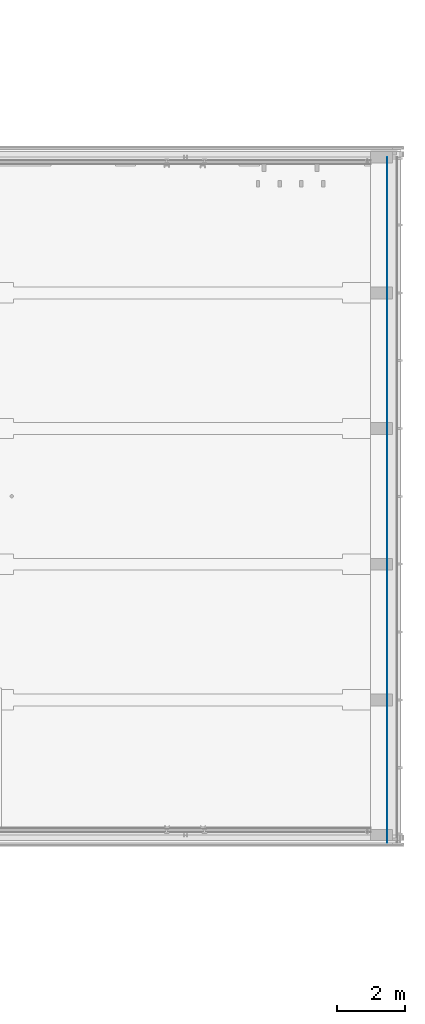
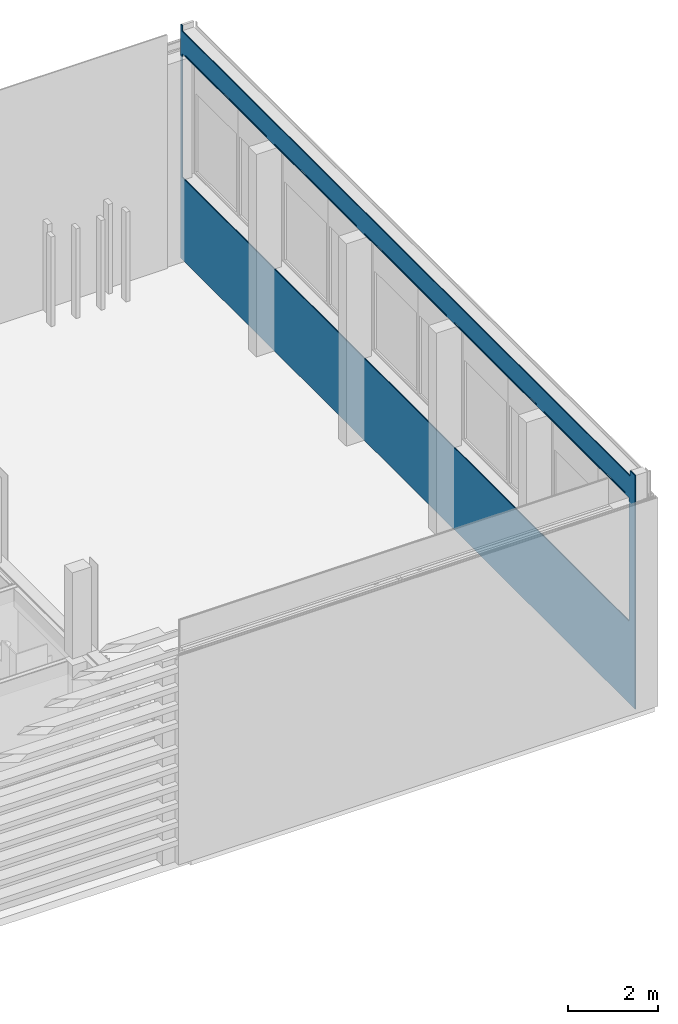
# One storey, part 26 of 109: 3 building element parts, 10 openings, 1 element without a shape of its own.
"""IFC2X3 building model written with IfcOpenShell, lengths in millimetres."""

from ifc_helpers import new_model, entity, si_unit, converted_unit, derived_unit, money_unit, direction, frame, origin_with_axes, place, context, subcontext, project, spatial, faceted_brep, material, type_object, element, aggregate, save


model = new_model("IFC2X3")

# Units and contexts
model_context = context("Model", 3, precision=0.01, world=origin_with_axes(), true_north=direction((0.0, 1.0)))
body_context = subcontext(model_context, "Body", "Model", "MODEL_VIEW")
ifc_project = project(units=[si_unit("LENGTHUNIT", "METRE", prefix="MILLI"), si_unit("AREAUNIT", "SQUARE_METRE"), si_unit("VOLUMEUNIT", "CUBIC_METRE"), converted_unit("PLANEANGLEUNIT", "DEGREE", entity("IfcPlaneAngleMeasure", 0.0174532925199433), si_unit("PLANEANGLEUNIT", "RADIAN"), dimensions=[0, 0, 0, 0, 0, 0, 0]), money_unit("EUR"), converted_unit("TIMEUNIT", "Year", entity("IfcTimeMeasure", 31557600.0), si_unit("TIMEUNIT", "SECOND"), dimensions=[0, 0, 1, 0, 0, 0, 0]), si_unit("MASSUNIT", "GRAM", prefix="KILO"), si_unit("THERMODYNAMICTEMPERATUREUNIT", "DEGREE_CELSIUS"), si_unit("LUMINOUSINTENSITYUNIT", "LUMEN"), si_unit("ENERGYUNIT", "JOULE", prefix="MEGA"), derived_unit("THERMALCONDUCTANCEUNIT", [(si_unit("POWERUNIT", "WATT"), 1), (si_unit("LENGTHUNIT", "METRE"), -1), (si_unit("THERMODYNAMICTEMPERATUREUNIT", "KELVIN"), -1)]), derived_unit("SPECIFICHEATCAPACITYUNIT", [(si_unit("ENERGYUNIT", "JOULE"), 1), (si_unit("MASSUNIT", "GRAM", prefix="KILO"), -1), (si_unit("THERMODYNAMICTEMPERATUREUNIT", "KELVIN"), -1)]), derived_unit("MASSDENSITYUNIT", [(si_unit("MASSUNIT", "GRAM", prefix="KILO"), 1), (si_unit("VOLUMEUNIT", "CUBIC_METRE"), -1)])], contexts=[model_context])

# Site, building, storey
site_placement = place(None, origin_with_axes())
site = spatial("IfcSite", under=ifc_project, at=site_placement, Name="<site naam>", CompositionType="ELEMENT")
building_placement = place(site_placement, origin_with_axes())
building = spatial("IfcBuilding", under=site, at=building_placement, Name="<Naam gebouw>", CompositionType="ELEMENT")
storey_placement = place(building_placement, origin_with_axes())
storey = spatial("IfcBuildingStorey", under=building, at=storey_placement, Name="00 Begane grond", CompositionType="ELEMENT", Elevation=0.0)

# Wall, openings, building element parts
wall_type = type_object("IfcWallType", Name="HSB_285 gevelbeplating 420", PredefinedType="NOTDEFINED")
wall_placement = place(storey_placement, frame((70205.99994042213, -214.0893451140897, 0.0), z_axis=(0.0, 0.0, 1.0), x_axis=(0.0, 1.0, 0.0)))
wall = element("IfcWall", 1, at=wall_placement, inside=storey, type_object=wall_type, Name="21_Binnenwand_HSB_285")
opening_1_placement = place(wall_placement, frame((5214.089345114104, 0.0, 2228.02207453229), z_axis=(0.0, 0.0, 1.0), x_axis=(1.0, 0.0, 0.0)))
element("IfcOpeningElement", 2, at=opening_1_placement, cuts=wall, Name="21_BU-B-04_305", context=body_context, shape_type="Brep", body=[
    faceted_brep([(1000.0, 6.000000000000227, 0.0), (1000.0, 6.000000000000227, 3353.976173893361), (1000.0, -1.000000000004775, 3353.976173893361), (1000.0, -1.000000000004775, 0.0), (1000.0, 421.0000000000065, 0.0), (1000.0, 421.0000000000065, 3353.976173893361), (-1000.0, 6.000000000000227, 3353.976173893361), (-1000.0, -1.000000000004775, 3353.976173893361), (-1000.0, -1.000000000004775, 0.0), (-1000.0, 6.000000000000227, 0.0), (-1000.0, 421.0000000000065, 0.0), (-1000.0, 421.0000000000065, 3353.976173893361)], [[[0, 1, 2, 3]], [[1, 0, 4, 5]], [[1, 6, 7, 2]], [[7, 8, 3, 2]], [[9, 0, 3, 8]], [[0, 9, 10, 4]], [[5, 4, 10, 11]], [[6, 1, 5, 11]], [[6, 9, 8, 7]], [[9, 6, 11, 10]]]),
])
opening_2_placement = place(wall_placement, frame((9214.089345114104, 0.0, 2228.02207453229), z_axis=(0.0, 0.0, 1.0), x_axis=(1.0, 0.0, 0.0)))
element("IfcOpeningElement", 3, at=opening_2_placement, cuts=wall, Name="21_BU-B-04_305", context=body_context, shape_type="Brep", body=[
    faceted_brep([(1000.0, 6.000000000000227, 0.0), (1000.0, 6.000000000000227, 3353.976173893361), (1000.0, -1.000000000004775, 3353.976173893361), (1000.0, -1.000000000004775, 0.0), (1000.0, 421.0000000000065, 0.0), (1000.0, 421.0000000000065, 3353.976173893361), (-1000.0, 6.000000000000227, 3353.976173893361), (-1000.0, -1.000000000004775, 3353.976173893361), (-1000.0, -1.000000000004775, 0.0), (-1000.0, 6.000000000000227, 0.0), (-1000.0, 421.0000000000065, 0.0), (-1000.0, 421.0000000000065, 3353.976173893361)], [[[0, 1, 2, 3]], [[1, 0, 4, 5]], [[1, 6, 7, 2]], [[7, 8, 3, 2]], [[9, 0, 3, 8]], [[0, 9, 10, 4]], [[5, 4, 10, 11]], [[6, 1, 5, 11]], [[6, 9, 8, 7]], [[9, 6, 11, 10]]]),
])
opening_3_placement = place(wall_placement, frame((17214.08934511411, 0.0, 2228.02207453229), z_axis=(0.0, 0.0, 1.0), x_axis=(1.0, 0.0, 0.0)))
element("IfcOpeningElement", 4, at=opening_3_placement, cuts=wall, Name="21_BU-B-04_305", context=body_context, shape_type="Brep", body=[
    faceted_brep([(1000.0, 6.000000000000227, 0.0), (1000.0, 6.000000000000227, 3353.976173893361), (1000.0, -1.000000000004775, 3353.976173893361), (1000.0, -1.000000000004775, 0.0), (1000.0, 421.0000000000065, 0.0), (1000.0, 421.0000000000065, 3353.976173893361), (-1000.0, 6.000000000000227, 3353.976173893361), (-1000.0, -1.000000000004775, 3353.976173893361), (-1000.0, -1.000000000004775, 0.0), (-1000.0, 6.000000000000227, 0.0), (-1000.0, 421.0000000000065, 0.0), (-1000.0, 421.0000000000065, 3353.976173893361)], [[[0, 1, 2, 3]], [[1, 0, 4, 5]], [[1, 6, 7, 2]], [[7, 8, 3, 2]], [[9, 0, 3, 8]], [[0, 9, 10, 4]], [[5, 4, 10, 11]], [[6, 1, 5, 11]], [[6, 9, 8, 7]], [[9, 6, 11, 10]]]),
])
opening_4_placement = place(wall_placement, frame((3214.089345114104, 0.0, 2228.02207453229), z_axis=(0.0, 0.0, 1.0), x_axis=(1.0, 0.0, 0.0)))
element("IfcOpeningElement", 5, at=opening_4_placement, cuts=wall, Name="21_BU-B-04_305", context=body_context, shape_type="Brep", body=[
    faceted_brep([(999.9999999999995, 6.000000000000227, 0.0), (999.9999999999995, 6.000000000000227, 3353.976173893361), (999.9999999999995, -1.000000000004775, 3353.976173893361), (999.9999999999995, -1.000000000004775, 0.0), (999.9999999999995, 421.0000000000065, 0.0), (999.9999999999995, 421.0000000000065, 3353.976173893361), (-1000.0, 6.000000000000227, 3353.976173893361), (-1000.0, -1.000000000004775, 3353.976173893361), (-1000.0, -1.000000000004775, 0.0), (-1000.0, 6.000000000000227, 0.0), (-1000.0, 421.0000000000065, 0.0), (-1000.0, 421.0000000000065, 3353.976173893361)], [[[0, 1, 2, 3]], [[1, 0, 4, 5]], [[1, 6, 7, 2]], [[7, 8, 3, 2]], [[9, 0, 3, 8]], [[0, 9, 10, 4]], [[5, 4, 10, 11]], [[6, 1, 5, 11]], [[6, 9, 8, 7]], [[9, 6, 11, 10]]]),
])
opening_5_placement = place(wall_placement, frame((13214.0893451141, 0.0, 2228.02207453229), z_axis=(0.0, 0.0, 1.0), x_axis=(1.0, 0.0, 0.0)))
element("IfcOpeningElement", 6, at=opening_5_placement, cuts=wall, Name="21_BU-B-04_305", context=body_context, shape_type="Brep", body=[
    faceted_brep([(1000.0, 6.000000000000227, 0.0), (1000.0, 6.000000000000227, 3353.976173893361), (1000.0, -1.000000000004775, 3353.976173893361), (1000.0, -1.000000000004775, 0.0), (1000.0, 421.0000000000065, 0.0), (1000.0, 421.0000000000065, 3353.976173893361), (-1000.0, 6.000000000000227, 3353.976173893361), (-1000.0, -1.000000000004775, 3353.976173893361), (-1000.0, -1.000000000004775, 0.0), (-1000.0, 6.000000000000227, 0.0), (-1000.0, 421.0000000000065, 0.0), (-1000.0, 421.0000000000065, 3353.976173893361)], [[[0, 1, 2, 3]], [[1, 0, 4, 5]], [[1, 6, 7, 2]], [[7, 8, 3, 2]], [[9, 0, 3, 8]], [[0, 9, 10, 4]], [[5, 4, 10, 11]], [[6, 1, 5, 11]], [[6, 9, 8, 7]], [[9, 6, 11, 10]]]),
])
opening_6_placement = place(wall_placement, frame((1244.089344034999, 0.0, 2228.02207453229), z_axis=(0.0, 0.0, 1.0), x_axis=(1.0, 0.0, 0.0)))
element("IfcOpeningElement", 7, at=opening_6_placement, cuts=wall, Name="21_BU-B-03_305", context=body_context, shape_type="Brep", body=[
    faceted_brep([(969.9999984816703, 6.000000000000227, 0.0), (969.9999984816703, 6.000000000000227, 3353.976173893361), (969.9999984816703, -1.000000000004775, 3353.976173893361), (969.9999984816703, -1.000000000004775, 0.0), (969.9999984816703, 421.0000000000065, 0.0), (969.9999984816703, 421.0000000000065, 3353.976173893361), (-969.9999984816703, 6.000000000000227, 3353.976173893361), (-969.9999984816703, -1.000000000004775, 3353.976173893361), (-969.9999984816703, -1.000000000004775, 0.0), (-969.9999984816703, 6.000000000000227, 0.0), (-969.9999984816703, 421.0000000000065, 0.0), (-969.9999984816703, 421.0000000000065, 3353.976173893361)], [[[0, 1, 2, 3]], [[1, 0, 4, 5]], [[1, 6, 7, 2]], [[7, 8, 3, 2]], [[9, 0, 3, 8]], [[0, 9, 10, 4]], [[5, 4, 10, 11]], [[6, 1, 5, 11]], [[6, 9, 8, 7]], [[9, 6, 11, 10]]]),
])
opening_7_placement = place(wall_placement, frame((7214.089345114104, 0.0, 2228.02207453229), z_axis=(0.0, 0.0, 1.0), x_axis=(1.0, 0.0, 0.0)))
element("IfcOpeningElement", 8, at=opening_7_placement, cuts=wall, Name="21_BU-B-04_305", context=body_context, shape_type="Brep", body=[
    faceted_brep([(1000.0, 6.000000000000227, 0.0), (1000.0, 6.000000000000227, 3353.976173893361), (1000.0, -1.000000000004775, 3353.976173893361), (1000.0, -1.000000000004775, 0.0), (1000.0, 421.0000000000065, 0.0), (1000.0, 421.0000000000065, 3353.976173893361), (-1000.0, 6.000000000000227, 3353.976173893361), (-1000.0, -1.000000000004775, 3353.976173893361), (-1000.0, -1.000000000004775, 0.0), (-1000.0, 6.000000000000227, 0.0), (-1000.0, 421.0000000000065, 0.0), (-1000.0, 421.0000000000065, 3353.976173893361)], [[[0, 1, 2, 3]], [[1, 0, 4, 5]], [[1, 6, 7, 2]], [[7, 8, 3, 2]], [[9, 0, 3, 8]], [[0, 9, 10, 4]], [[5, 4, 10, 11]], [[6, 1, 5, 11]], [[6, 9, 8, 7]], [[9, 6, 11, 10]]]),
])
opening_8_placement = place(wall_placement, frame((11214.0893451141, 0.0, 2228.02207453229), z_axis=(0.0, 0.0, 1.0), x_axis=(1.0, 0.0, 0.0)))
element("IfcOpeningElement", 9, at=opening_8_placement, cuts=wall, Name="21_BU-B-04_305", context=body_context, shape_type="Brep", body=[
    faceted_brep([(1000.0, 6.000000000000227, 0.0), (1000.0, 6.000000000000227, 3353.976173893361), (1000.0, -1.000000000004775, 3353.976173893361), (1000.0, -1.000000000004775, 0.0), (1000.0, 421.0000000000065, 0.0), (1000.0, 421.0000000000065, 3353.976173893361), (-1000.0, 6.000000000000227, 3353.976173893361), (-1000.0, -1.000000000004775, 3353.976173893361), (-1000.0, -1.000000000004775, 0.0), (-1000.0, 6.000000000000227, 0.0), (-1000.0, 421.0000000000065, 0.0), (-1000.0, 421.0000000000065, 3353.976173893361)], [[[0, 1, 2, 3]], [[1, 0, 4, 5]], [[1, 6, 7, 2]], [[7, 8, 3, 2]], [[9, 0, 3, 8]], [[0, 9, 10, 4]], [[5, 4, 10, 11]], [[6, 1, 5, 11]], [[6, 9, 8, 7]], [[9, 6, 11, 10]]]),
])
opening_9_placement = place(wall_placement, frame((19184.08934359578, 0.0, 2228.02207453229), z_axis=(0.0, 0.0, 1.0), x_axis=(1.0, 0.0, 0.0)))
element("IfcOpeningElement", 10, at=opening_9_placement, cuts=wall, Name="21_BU-B-03 sp_305", context=body_context, shape_type="Brep", body=[
    faceted_brep([(969.999998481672, 6.000000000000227, 0.0), (969.999998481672, 6.000000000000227, 3353.976173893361), (969.999998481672, -1.000000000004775, 3353.976173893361), (969.999998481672, -1.000000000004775, 0.0), (969.999998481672, 421.0000000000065, 0.0), (969.999998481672, 421.0000000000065, 3353.976173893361), (-969.999998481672, 6.000000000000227, 3353.976173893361), (-969.999998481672, -1.000000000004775, 3353.976173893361), (-969.999998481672, -1.000000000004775, 0.0), (-969.999998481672, 6.000000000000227, 0.0), (-969.999998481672, 421.0000000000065, 0.0), (-969.999998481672, 421.0000000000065, 3353.976173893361)], [[[0, 1, 2, 3]], [[1, 0, 4, 5]], [[1, 6, 7, 2]], [[7, 8, 3, 2]], [[9, 0, 3, 8]], [[0, 9, 10, 4]], [[5, 4, 10, 11]], [[6, 1, 5, 11]], [[6, 9, 8, 7]], [[9, 6, 11, 10]]]),
])
opening_10_placement = place(wall_placement, frame((15214.0893451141, 0.0, 2228.02207453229), z_axis=(0.0, 0.0, 1.0), x_axis=(1.0, 0.0, 0.0)))
element("IfcOpeningElement", 11, at=opening_10_placement, cuts=wall, Name="21_BU-B-04_305", context=body_context, shape_type="Brep", body=[
    faceted_brep([(1000.000000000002, 6.000000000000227, 0.0), (1000.000000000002, 6.000000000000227, 3353.976173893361), (1000.000000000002, -1.000000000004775, 3353.976173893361), (1000.000000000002, -1.000000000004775, 0.0), (1000.000000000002, 421.0000000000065, 0.0), (1000.000000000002, 421.0000000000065, 3353.976173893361), (-1000.0, 6.000000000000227, 3353.976173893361), (-1000.0, -1.000000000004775, 3353.976173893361), (-1000.0, -1.000000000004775, 0.0), (-1000.0, 6.000000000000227, 0.0), (-1000.0, 421.0000000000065, 0.0), (-1000.0, 421.0000000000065, 3353.976173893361)], [[[0, 1, 2, 3]], [[1, 0, 4, 5]], [[1, 6, 7, 2]], [[7, 8, 3, 2]], [[9, 0, 3, 8]], [[0, 9, 10, 4]], [[5, 4, 10, 11]], [[6, 1, 5, 11]], [[6, 9, 8, 7]], [[9, 6, 11, 10]]]),
])
ifc_material_1 = material(Name="hout_OSB")
building_element_part_1_placement = place(wall_placement, origin_with_axes())
building_element_part_1 = element("IfcBuildingElementPart", 12, at=building_element_part_1_placement, material=ifc_material_1, Name="hout_OSB", context=body_context, shape_type="Brep", body=[
    faceted_brep([(20154.08934511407, 407.4999999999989, 6345.0), (20154.08934511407, 392.4999999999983, 6345.0), (20214.08934511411, 392.4999999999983, 6345.0), (20214.08934511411, 407.4999999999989, 6345.0), (20154.08934511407, 392.4999999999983, 6194.999999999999), (20154.08934511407, 407.4999999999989, 6194.999999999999), (225.0000232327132, 392.4999999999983, 6194.999999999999), (225.0000232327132, 392.4999999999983, 6345.0), (0.0, 392.4999999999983, 6345.0), (0.0, 392.4999999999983, 0.0), (20214.08934511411, 392.4999999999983, 0.0), (4039.089489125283, 392.4999999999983, 5594.999999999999), (440.0000776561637, 392.4999999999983, 5594.999999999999), (440.0000776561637, 392.4999999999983, 5634.999999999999), (4039.089489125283, 392.4999999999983, 5634.999999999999), (8039.089336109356, 392.4999999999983, 5594.999999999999), (4389.089384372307, 392.4999999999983, 5594.999999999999), (4389.089384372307, 392.4999999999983, 5634.999999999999), (8039.089336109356, 392.4999999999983, 5634.999999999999), (19999.08927716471, 392.4999999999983, 5594.999999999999), (16389.08941954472, 392.4999999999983, 5594.999999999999), (16389.08941954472, 392.4999999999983, 5634.999999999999), (19999.08927716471, 392.4999999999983, 5634.999999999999), (12039.08950146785, 392.4999999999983, 5594.999999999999), (8389.089369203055, 392.4999999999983, 5594.999999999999), (8389.089369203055, 392.4999999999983, 5634.999999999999), (12039.08950146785, 392.4999999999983, 5634.999999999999), (16039.08927579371, 392.4999999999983, 5594.999999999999), (12389.08932405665, 392.4999999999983, 5594.999999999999), (12389.08932405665, 392.4999999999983, 5634.999999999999), (16039.08927579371, 392.4999999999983, 5634.999999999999), (20214.08934511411, 407.4999999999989, 0.0), (20039.08934511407, 407.4999999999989, 0.0), (20039.08934511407, 407.4999999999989, 3.000000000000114), (440.000104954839, 407.4999999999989, 3.000000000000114), (440.000104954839, 407.4999999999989, 0.0), (0.0, 407.4999999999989, 0.0), (0.0, 407.4999999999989, 6345.0), (225.0000232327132, 407.4999999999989, 6345.0), (225.0000232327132, 407.4999999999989, 6194.999999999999), (440.0000776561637, 407.4999999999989, 5634.999999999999), (440.0000776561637, 407.4999999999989, 5594.999999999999), (4039.089489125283, 407.4999999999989, 5594.999999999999), (4039.089489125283, 407.4999999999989, 5634.999999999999), (4389.089384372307, 407.4999999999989, 5634.999999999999), (4389.089384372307, 407.4999999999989, 5594.999999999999), (8039.089336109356, 407.4999999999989, 5594.999999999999), (8039.089336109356, 407.4999999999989, 5634.999999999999), (16389.08941954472, 407.4999999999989, 5634.999999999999), (16389.08941954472, 407.4999999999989, 5594.999999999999), (19999.08927716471, 407.4999999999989, 5594.999999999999), (19999.08927716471, 407.4999999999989, 5634.999999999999), (8389.089369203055, 407.4999999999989, 5634.999999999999), (8389.089369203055, 407.4999999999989, 5594.999999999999), (12039.08950146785, 407.4999999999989, 5594.999999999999), (12039.08950146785, 407.4999999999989, 5634.999999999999), (12389.08932405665, 407.4999999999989, 5634.999999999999), (12389.08932405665, 407.4999999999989, 5594.999999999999), (16039.08927579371, 407.4999999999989, 5594.999999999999), (16039.08927579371, 407.4999999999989, 5634.999999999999), (440.000104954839, 394.0002837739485, 0.0), (20039.08934511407, 393.9999857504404, 0.0), (20039.08934511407, 393.9999857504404, 3.000000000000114), (440.000104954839, 394.0002837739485, 3.000000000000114)], [[[0, 1, 2, 3]], [[4, 1, 0, 5]], [[6, 7, 8, 9, 10, 2, 1, 4], [11, 12, 13, 14], [15, 16, 17, 18], [19, 20, 21, 22], [23, 24, 25, 26], [27, 28, 29, 30]], [[2, 10, 31, 3]], [[5, 0, 3, 31, 32, 33, 34, 35, 36, 37, 38, 39], [40, 41, 42, 43], [44, 45, 46, 47], [48, 49, 50, 51], [52, 53, 54, 55], [56, 57, 58, 59]], [[6, 4, 5, 39]], [[38, 7, 6, 39]], [[7, 38, 37, 8]], [[8, 37, 36, 9]], [[36, 35, 60, 61, 32, 31, 10, 9]], [[41, 12, 11, 42]], [[40, 13, 12, 41]], [[43, 14, 13, 40]], [[42, 11, 14, 43]], [[45, 16, 15, 46]], [[44, 17, 16, 45]], [[47, 18, 17, 44]], [[46, 15, 18, 47]], [[49, 20, 19, 50]], [[48, 21, 20, 49]], [[51, 22, 21, 48]], [[50, 19, 22, 51]], [[53, 24, 23, 54]], [[52, 25, 24, 53]], [[55, 26, 25, 52]], [[54, 23, 26, 55]], [[57, 28, 27, 58]], [[56, 29, 28, 57]], [[59, 30, 29, 56]], [[58, 27, 30, 59]], [[33, 32, 61, 62]], [[63, 34, 33, 62]], [[63, 60, 35, 34]], [[62, 61, 60, 63]]]),
])
ifc_material_2 = material(Name="gipsplaat")
building_element_part_2_placement = place(wall_placement, origin_with_axes())
building_element_part_2 = element("IfcBuildingElementPart", 13, at=building_element_part_2_placement, material=ifc_material_2, Name="gipsplaat", context=body_context, shape_type="Brep", body=[
    faceted_brep([(20154.08934511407, 420.0000000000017, 6345.0), (20154.08934511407, 407.4999999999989, 6345.0), (20214.08934511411, 407.4999999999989, 6345.0), (20214.08934511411, 420.0000000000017, 6345.0), (20154.08934511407, 407.4999999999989, 6194.999999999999), (20154.08934511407, 420.0000000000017, 6194.999999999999), (225.0000232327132, 407.4999999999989, 6194.999999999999), (225.0000232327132, 407.4999999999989, 6345.0), (0.0, 407.4999999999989, 6345.0), (0.0, 407.4999999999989, 0.0), (440.000104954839, 407.4999999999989, 0.0), (440.000104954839, 407.4999999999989, 3.000000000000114), (20039.08934511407, 407.4999999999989, 3.000000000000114), (20039.08934511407, 407.4999999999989, 0.0), (20214.08934511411, 407.4999999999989, 0.0), (4039.089489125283, 407.4999999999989, 5594.999999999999), (440.0000776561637, 407.4999999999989, 5594.999999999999), (440.0000776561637, 407.4999999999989, 5634.999999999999), (4039.089489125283, 407.4999999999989, 5634.999999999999), (8039.089336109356, 407.4999999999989, 5594.999999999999), (4389.089384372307, 407.4999999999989, 5594.999999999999), (4389.089384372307, 407.4999999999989, 5634.999999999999), (8039.089336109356, 407.4999999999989, 5634.999999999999), (19999.08927716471, 407.4999999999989, 5594.999999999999), (16389.08941954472, 407.4999999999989, 5594.999999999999), (16389.08941954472, 407.4999999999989, 5634.999999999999), (19999.08927716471, 407.4999999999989, 5634.999999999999), (12039.08950146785, 407.4999999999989, 5594.999999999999), (8389.089369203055, 407.4999999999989, 5594.999999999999), (8389.089369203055, 407.4999999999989, 5634.999999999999), (12039.08950146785, 407.4999999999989, 5634.999999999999), (16039.08927579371, 407.4999999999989, 5594.999999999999), (12389.08932405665, 407.4999999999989, 5594.999999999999), (12389.08932405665, 407.4999999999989, 5634.999999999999), (16039.08927579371, 407.4999999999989, 5634.999999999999), (20214.08934511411, 420.0000000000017, 0.0), (20039.08934511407, 420.0000000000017, 0.0), (20039.08934511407, 420.0000000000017, 3.000000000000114), (440.000104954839, 420.0000000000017, 3.000000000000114), (440.000104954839, 420.0000000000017, 0.0), (0.0, 420.0000000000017, 0.0), (0.0, 420.0000000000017, 6345.0), (225.0000232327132, 420.0000000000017, 6345.0), (225.0000232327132, 420.0000000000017, 6194.999999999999), (440.0000776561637, 420.0000000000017, 5634.999999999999), (440.0000776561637, 420.0000000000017, 5594.999999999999), (4039.089489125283, 420.0000000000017, 5594.999999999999), (4039.089489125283, 420.0000000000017, 5634.999999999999), (4389.089384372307, 420.0000000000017, 5634.999999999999), (4389.089384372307, 420.0000000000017, 5594.999999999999), (8039.089336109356, 420.0000000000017, 5594.999999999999), (8039.089336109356, 420.0000000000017, 5634.999999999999), (16389.08941954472, 420.0000000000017, 5634.999999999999), (16389.08941954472, 420.0000000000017, 5594.999999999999), (19999.08927716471, 420.0000000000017, 5594.999999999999), (19999.08927716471, 420.0000000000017, 5634.999999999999), (8389.089369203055, 420.0000000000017, 5634.999999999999), (8389.089369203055, 420.0000000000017, 5594.999999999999), (12039.08950146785, 420.0000000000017, 5594.999999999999), (12039.08950146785, 420.0000000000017, 5634.999999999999), (12389.08932405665, 420.0000000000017, 5634.999999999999), (12389.08932405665, 420.0000000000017, 5594.999999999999), (16039.08927579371, 420.0000000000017, 5594.999999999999), (16039.08927579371, 420.0000000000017, 5634.999999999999)], [[[0, 1, 2, 3]], [[4, 1, 0, 5]], [[6, 7, 8, 9, 10, 11, 12, 13, 14, 2, 1, 4], [15, 16, 17, 18], [19, 20, 21, 22], [23, 24, 25, 26], [27, 28, 29, 30], [31, 32, 33, 34]], [[2, 14, 35, 3]], [[5, 0, 3, 35, 36, 37, 38, 39, 40, 41, 42, 43], [44, 45, 46, 47], [48, 49, 50, 51], [52, 53, 54, 55], [56, 57, 58, 59], [60, 61, 62, 63]], [[6, 4, 5, 43]], [[42, 7, 6, 43]], [[7, 42, 41, 8]], [[8, 41, 40, 9]], [[40, 39, 10, 9]], [[38, 11, 10, 39]], [[37, 12, 11, 38]], [[36, 13, 12, 37]], [[14, 13, 36, 35]], [[45, 16, 15, 46]], [[44, 17, 16, 45]], [[47, 18, 17, 44]], [[46, 15, 18, 47]], [[49, 20, 19, 50]], [[48, 21, 20, 49]], [[51, 22, 21, 48]], [[50, 19, 22, 51]], [[53, 24, 23, 54]], [[52, 25, 24, 53]], [[55, 26, 25, 52]], [[54, 23, 26, 55]], [[57, 28, 27, 58]], [[56, 29, 28, 57]], [[59, 30, 29, 56]], [[58, 27, 30, 59]], [[61, 32, 31, 62]], [[60, 33, 32, 61]], [[63, 34, 33, 60]], [[62, 31, 34, 63]]]),
])
ifc_material_3 = material(Name="folie_dampdicht")
building_element_part_3_placement = place(wall_placement, origin_with_axes())
building_element_part_3 = element("IfcBuildingElementPart", 14, at=building_element_part_3_placement, material=ifc_material_3, Name="folie_dampdicht", context=body_context, shape_type="Brep", body=[
    faceted_brep([(20154.08934511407, 392.4999999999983, 6345.0), (20154.08934511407, 391.9999999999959, 6345.0), (20214.08934511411, 391.9999999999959, 6345.0), (20214.08934511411, 392.4999999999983, 6345.0), (20154.08934511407, 391.9999999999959, 6194.999999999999), (20154.08934511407, 392.4999999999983, 6194.999999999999), (225.0000232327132, 391.9999999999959, 6194.999999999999), (225.0000232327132, 391.9999999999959, 6345.0), (0.0, 391.9999999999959, 6345.0), (0.0, 391.9999999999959, 0.0), (20214.08934511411, 391.9999999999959, 0.0), (4039.089489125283, 391.9999999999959, 5594.999999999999), (440.0000776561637, 391.9999999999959, 5594.999999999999), (440.0000776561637, 391.9999999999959, 5634.999999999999), (4039.089489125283, 391.9999999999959, 5634.999999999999), (8039.089336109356, 391.9999999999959, 5594.999999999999), (4389.089384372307, 391.9999999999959, 5594.999999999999), (4389.089384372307, 391.9999999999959, 5634.999999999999), (8039.089336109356, 391.9999999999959, 5634.999999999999), (19999.08927716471, 391.9999999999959, 5594.999999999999), (16389.08941954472, 391.9999999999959, 5594.999999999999), (16389.08941954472, 391.9999999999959, 5634.999999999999), (19999.08927716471, 391.9999999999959, 5634.999999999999), (12039.08950146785, 391.9999999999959, 5594.999999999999), (8389.089369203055, 391.9999999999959, 5594.999999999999), (8389.089369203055, 391.9999999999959, 5634.999999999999), (12039.08950146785, 391.9999999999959, 5634.999999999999), (16039.08927579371, 391.9999999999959, 5594.999999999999), (12389.08932405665, 391.9999999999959, 5594.999999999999), (12389.08932405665, 391.9999999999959, 5634.999999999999), (16039.08927579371, 391.9999999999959, 5634.999999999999), (20214.08934511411, 392.4999999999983, 0.0), (0.0, 392.4999999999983, 0.0), (0.0, 392.4999999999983, 6345.0), (225.0000232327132, 392.4999999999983, 6345.0), (225.0000232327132, 392.4999999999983, 6194.999999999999), (440.0000776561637, 392.4999999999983, 5634.999999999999), (440.0000776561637, 392.4999999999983, 5594.999999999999), (4039.089489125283, 392.4999999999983, 5594.999999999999), (4039.089489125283, 392.4999999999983, 5634.999999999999), (4389.089384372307, 392.4999999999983, 5634.999999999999), (4389.089384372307, 392.4999999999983, 5594.999999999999), (8039.089336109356, 392.4999999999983, 5594.999999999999), (8039.089336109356, 392.4999999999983, 5634.999999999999), (16389.08941954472, 392.4999999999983, 5634.999999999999), (16389.08941954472, 392.4999999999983, 5594.999999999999), (19999.08927716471, 392.4999999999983, 5594.999999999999), (19999.08927716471, 392.4999999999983, 5634.999999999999), (8389.089369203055, 392.4999999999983, 5634.999999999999), (8389.089369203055, 392.4999999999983, 5594.999999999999), (12039.08950146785, 392.4999999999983, 5594.999999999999), (12039.08950146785, 392.4999999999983, 5634.999999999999), (12389.08932405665, 392.4999999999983, 5634.999999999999), (12389.08932405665, 392.4999999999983, 5594.999999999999), (16039.08927579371, 392.4999999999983, 5594.999999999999), (16039.08927579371, 392.4999999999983, 5634.999999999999)], [[[0, 1, 2, 3]], [[4, 1, 0, 5]], [[6, 7, 8, 9, 10, 2, 1, 4], [11, 12, 13, 14], [15, 16, 17, 18], [19, 20, 21, 22], [23, 24, 25, 26], [27, 28, 29, 30]], [[2, 10, 31, 3]], [[5, 0, 3, 31, 32, 33, 34, 35], [36, 37, 38, 39], [40, 41, 42, 43], [44, 45, 46, 47], [48, 49, 50, 51], [52, 53, 54, 55]], [[6, 4, 5, 35]], [[34, 7, 6, 35]], [[7, 34, 33, 8]], [[8, 33, 32, 9]], [[9, 32, 31, 10]], [[37, 12, 11, 38]], [[36, 13, 12, 37]], [[39, 14, 13, 36]], [[38, 11, 14, 39]], [[41, 16, 15, 42]], [[40, 17, 16, 41]], [[43, 18, 17, 40]], [[42, 15, 18, 43]], [[45, 20, 19, 46]], [[44, 21, 20, 45]], [[47, 22, 21, 44]], [[46, 19, 22, 47]], [[49, 24, 23, 50]], [[48, 25, 24, 49]], [[51, 26, 25, 48]], [[50, 23, 26, 51]], [[53, 28, 27, 54]], [[52, 29, 28, 53]], [[55, 30, 29, 52]], [[54, 27, 30, 55]]]),
])
aggregate(wall, [building_element_part_1, building_element_part_2, building_element_part_3])

save(model, "model.ifc")
